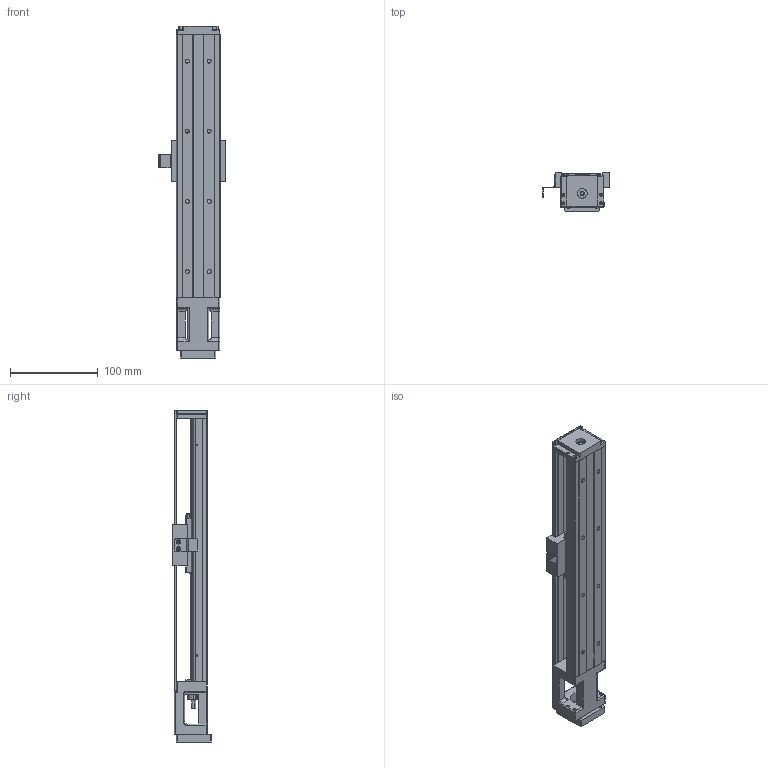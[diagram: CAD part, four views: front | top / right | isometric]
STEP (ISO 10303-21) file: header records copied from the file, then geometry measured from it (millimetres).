
FILE_DESCRIPTION (( 'STEP AP203' ), '1' );
FILE_NAME ('SK50-02-300.step', '2023-01-14T07:19:23', ( '' ), ( '' ), 'SwSTEP 2.0', 'SolidWorks 2018', '' );
FILE_SCHEMA (( 'CONFIG_CONTROL_DESIGN' ));
Length unit declared in the file: millimetre
Products named in the file (15): KK50______-2.STEP; KK50-300____.STEP; ____KK-50-F2.STEP; KK50-300____-0.STEP; ______KK-50-FS.STEP; KK50-A1____.STEP; ______KK-50-CV-300.STEP; KK50______.STEP; 671____KK-50-S1-D1.STEP; KK50____.STEP; KK50-300A1-F2CS1-AC1005.STEP; KK50______-1.STEP; SK50-02-300; KK50__________.STEP; KK50________.STEP
Assembly tree (15 placements, depth 3):
  SK50-02-300
    KK50-300A1-F2CS1-AC1005.STEP
      KK50-300____.STEP
      KK50-300____-0.STEP
      KK50-A1____.STEP
      KK50______.STEP  x2
      KK50____.STEP
      KK50______-1.STEP
      KK50__________.STEP
      KK50________.STEP
      KK50______-2.STEP
      ____KK-50-F2.STEP
      ______KK-50-FS.STEP
      ______KK-50-CV-300.STEP
      671____KK-50-S1-D1.STEP
Bounding box: 76.3 x 44 x 378.5 mm (x, y, z)
Volume: 317514.5 mm3; surface area: 145834.2 mm2
Topology: 14 solids, 19 shells, 938 faces, 2470 edges, 1522 vertices
Faces by surface type: cylinder 450, plane 310, cone 110, bspline 68
Entity records: 32126 total; most frequent: CARTESIAN_POINT 8039, ORIENTED_EDGE 4728, DIRECTION 4646, EDGE_CURVE 2364, AXIS2_PLACEMENT_3D 1697, VERTEX_POINT 1514, VECTOR 1252, LINE 1252
